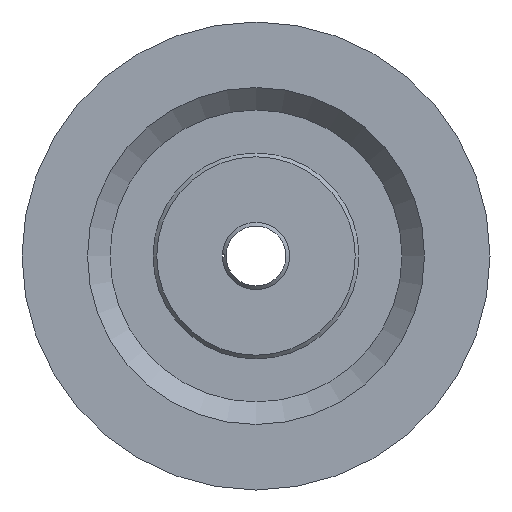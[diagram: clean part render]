
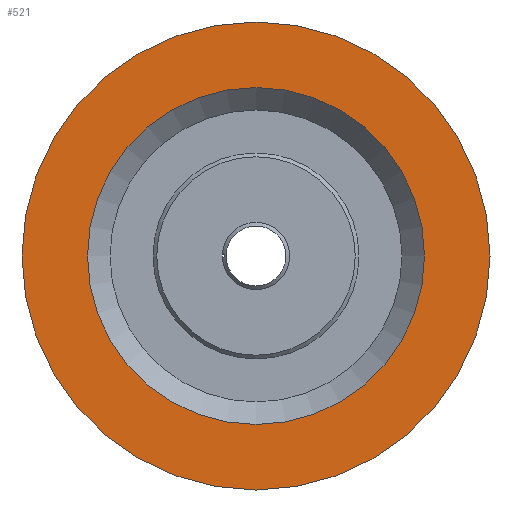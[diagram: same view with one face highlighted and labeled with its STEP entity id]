
A CAD part, left-side view. The second image highlights one B-rep face of the part: STEP entity #521.
In plain terms, the highlighted planar face has unit normal (-1, 0, 0).
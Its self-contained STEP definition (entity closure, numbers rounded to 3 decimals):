
#34=FACE_BOUND('',#147,.T.);
#40=PLANE('',#655);
#114=FACE_OUTER_BOUND('',#146,.T.);
#146=EDGE_LOOP('',(#439,#440));
#147=EDGE_LOOP('',(#441,#442));
#182=CIRCLE('',#622,62.5);
#183=CIRCLE('',#623,62.5);
#203=CIRCLE('',#653,45.);
#204=CIRCLE('',#654,45.);
#235=VERTEX_POINT('',#926);
#236=VERTEX_POINT('',#928);
#256=VERTEX_POINT('',#985);
#257=VERTEX_POINT('',#987);
#294=EDGE_CURVE('',#235,#236,#182,.T.);
#295=EDGE_CURVE('',#236,#235,#183,.T.);
#322=EDGE_CURVE('',#257,#256,#203,.T.);
#323=EDGE_CURVE('',#256,#257,#204,.T.);
#439=ORIENTED_EDGE('',*,*,#295,.F.);
#440=ORIENTED_EDGE('',*,*,#294,.F.);
#441=ORIENTED_EDGE('',*,*,#322,.T.);
#442=ORIENTED_EDGE('',*,*,#323,.T.);
#521=ADVANCED_FACE('',(#114,#34),#40,.T.);
#622=AXIS2_PLACEMENT_3D('',#929,#740,#741);
#623=AXIS2_PLACEMENT_3D('',#930,#742,#743);
#653=AXIS2_PLACEMENT_3D('',#988,#809,#810);
#654=AXIS2_PLACEMENT_3D('',#989,#811,#812);
#655=AXIS2_PLACEMENT_3D('',#990,#813,#814);
#740=DIRECTION('center_axis',(1.,0.,0.));
#741=DIRECTION('ref_axis',(0.,0.,-1.));
#742=DIRECTION('center_axis',(1.,0.,0.));
#743=DIRECTION('ref_axis',(0.,0.,-1.));
#809=DIRECTION('center_axis',(1.,0.,0.));
#810=DIRECTION('ref_axis',(0.,0.,-1.));
#811=DIRECTION('center_axis',(1.,0.,0.));
#812=DIRECTION('ref_axis',(0.,0.,-1.));
#813=DIRECTION('center_axis',(-1.,0.,0.));
#814=DIRECTION('ref_axis',(0.,0.,1.));
#926=CARTESIAN_POINT('',(-11.,-62.5,0.));
#928=CARTESIAN_POINT('',(-11.,62.5,0.));
#929=CARTESIAN_POINT('Origin',(-11.,0.,0.));
#930=CARTESIAN_POINT('Origin',(-11.,0.,0.));
#985=CARTESIAN_POINT('',(-11.,-45.,0.));
#987=CARTESIAN_POINT('',(-11.,45.,0.));
#988=CARTESIAN_POINT('Origin',(-11.,0.,0.));
#989=CARTESIAN_POINT('Origin',(-11.,0.,0.));
#990=CARTESIAN_POINT('Origin',(-11.,62.5,0.));
